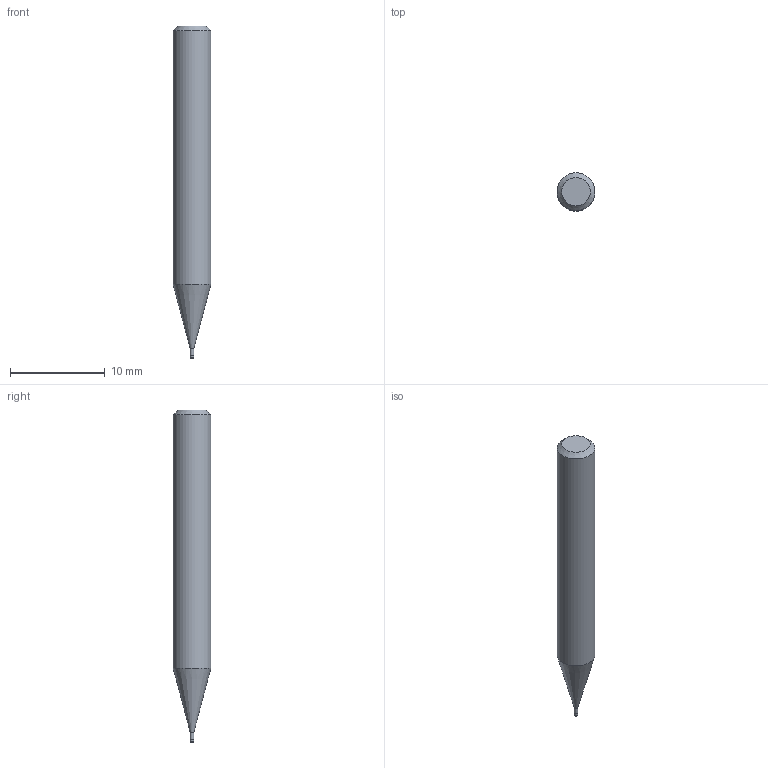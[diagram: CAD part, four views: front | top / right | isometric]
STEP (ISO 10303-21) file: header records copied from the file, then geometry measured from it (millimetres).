
FILE_DESCRIPTION((''),'2;1');
FILE_NAME('C:\Users\nsx150\AppData\Local\Temp\Mastercam 2021\80JYEHYUML\TEMP.step','2022-03-29T14:34:59',(''),(''),'STEP Write','Mastercam 2021 ... CNC Software, Inc.','');
FILE_SCHEMA(('AUTOMOTIVE_DESIGN'));
Length unit declared in the file: millimetre
Products named in the file (1): None
Bounding box: 4 x 4 x 35 mm (x, y, z)
Volume: 372 mm3; surface area: 400.4 mm2
Topology: 2 solids, 2 shells, 10 faces, 14 edges, 8 vertices
Faces by surface type: plane 4, cylinder 3, cone 2, torus 1
Full cylindrical faces by diameter (mm): 0.37 x1, 0.4 x1, 4 x1
Entity records: 232 total; most frequent: DIRECTION 40, CARTESIAN_POINT 28, AXIS2_PLACEMENT_3D 20, ORIENTED_EDGE 16, EDGE_LOOP 16, STYLED_ITEM 13, ADVANCED_FACE 10, FACE_BOUND 10
